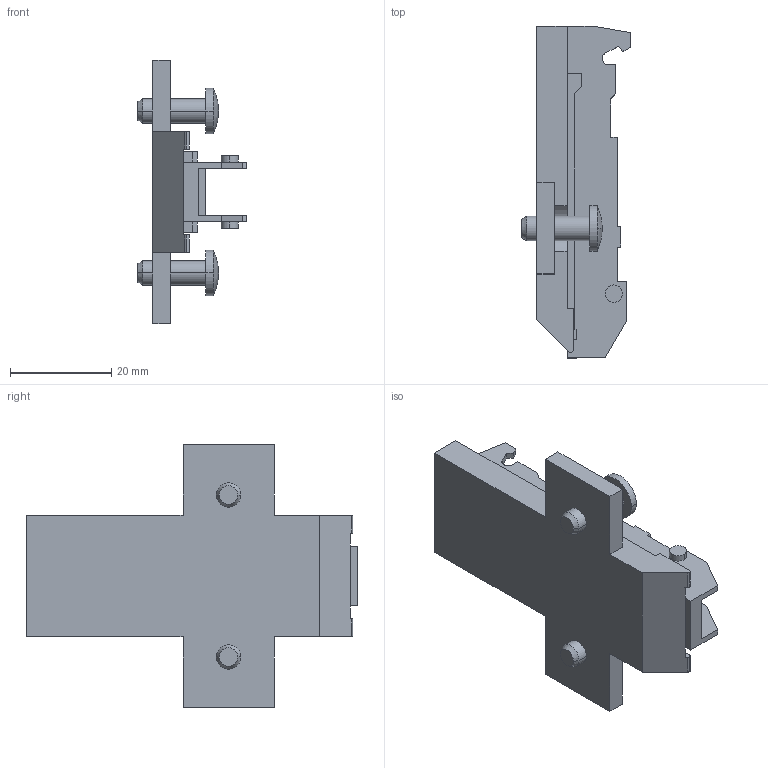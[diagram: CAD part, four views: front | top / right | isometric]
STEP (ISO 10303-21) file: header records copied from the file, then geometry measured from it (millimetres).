
FILE_DESCRIPTION (( 'STEP AP214' ), '1' );
FILE_NAME ('1D Kreuzmontageplatte_37_32_H08_Euro.STEP', '2011-08-18T13:47:59', ( '' ), ( '' ), 'SwSTEP 2.0', 'SolidWorks 2011', '' );
FILE_SCHEMA (( 'AUTOMOTIVE_DESIGN' ));
Length unit declared in the file: millimetre
Products named in the file (1): 1D Kreuzmontageplatte_37_32_H08_Euro
Bounding box: 21.5 x 65.55 x 52 mm (x, y, z)
Volume: 15160.8 mm3; surface area: 8464.1 mm2
Topology: 1 solids, 1 shells, 124 faces, 338 edges, 224 vertices
Faces by surface type: plane 92, cylinder 24, cone 4, sphere 4
Entity records: 3924 total; most frequent: CARTESIAN_POINT 687, ORIENTED_EDGE 676, DIRECTION 648, EDGE_CURVE 338, VECTOR 278, LINE 278, VERTEX_POINT 224, AXIS2_PLACEMENT_3D 185
